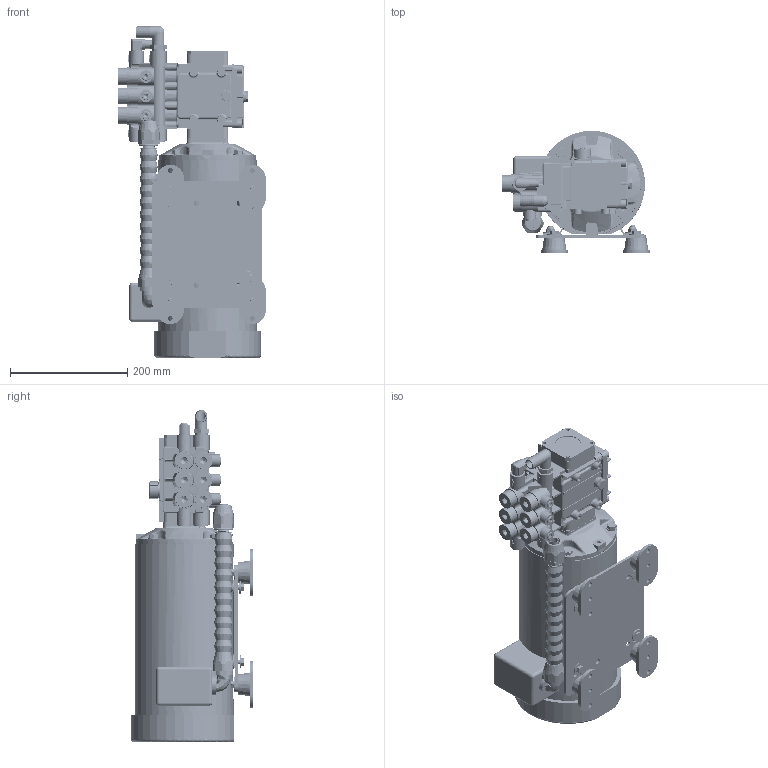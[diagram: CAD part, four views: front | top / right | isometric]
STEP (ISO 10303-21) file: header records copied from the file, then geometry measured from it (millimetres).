
FILE_DESCRIPTION(/* description */ (''),/* implementation_level */ '2;1');
FILE_NAME(/* name */ 'E:\Engineering\SRC\Leisure Marine, Product Development\2- STANDARD UNITS\HRO-MODULAR UNITS\H25M SEAFARI VERSATILE MODULAR W-TRANS\B2151510004 HP PUMP-MOTOR PLG HRO VERSATILE 3HP 220-440-60 3PH.stp',/* time_stamp */ '2015-10-20T15:55:52-07:00',/* author */ ('515746'),/* organization */ (''),/* preprocessor_version */ 'ST-DEVELOPER v15.2',/* originating_system */ 'Autodesk Inventor 2014',/* authorisation */ '');
FILE_SCHEMA (('CONFIG_CONTROL_DESIGN'));
Length unit declared in the file: inch
Products named in the file (2): B2151510004 HP PUMP-MOTOR PLG HRO VERSATILE  3HP 220-440-60 3PH_Subst
itute_1; B2151510004 HP PUMP-MOTOR PLG HRO VERSATILE  3HP 220-440-60 3PH
Bounding box: 251.39 x 208.52 x 565.28 mm (x, y, z)
Volume: 9438466 mm3; surface area: 881407.4 mm2
Topology: 47 solids, 73 shells, 3536 faces, 8548 edges, 5304 vertices
Faces by surface type: plane 1469, cylinder 1151, cone 388, torus 249, bspline 221, sphere 58
Full cylindrical faces by diameter (mm): 1.981 x3, 2.54 x2, 5.08 x20, 6.096 x4, 6.35 x8, 6.528 x8, 6.604 x7, 6.731 x2, 6.985 x12, 7.493 x1, 7.62 x1, 7.937 x4, 7.938 x12, 8.255 x8, 8.382 x1, 8.731 x8, 8.89 x11, 9.128 x6, 9.144 x18, 9.525 x68, 9.804 x1, 9.906 x6, 10.16 x1, 10.312 x4, 10.795 x6, 11.1 x6, 11.125 x6, 11.43 x1, 12.065 x5, 12.319 x2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
Entity records: 115493 total; most frequent: CARTESIAN_POINT 34115, DIRECTION 16726, ORIENTED_EDGE 15224, EDGE_CURVE 7612, AXIS2_PLACEMENT_3D 6808, VERTEX_POINT 5072, EDGE_LOOP 4552, ADVANCED_FACE 3536
